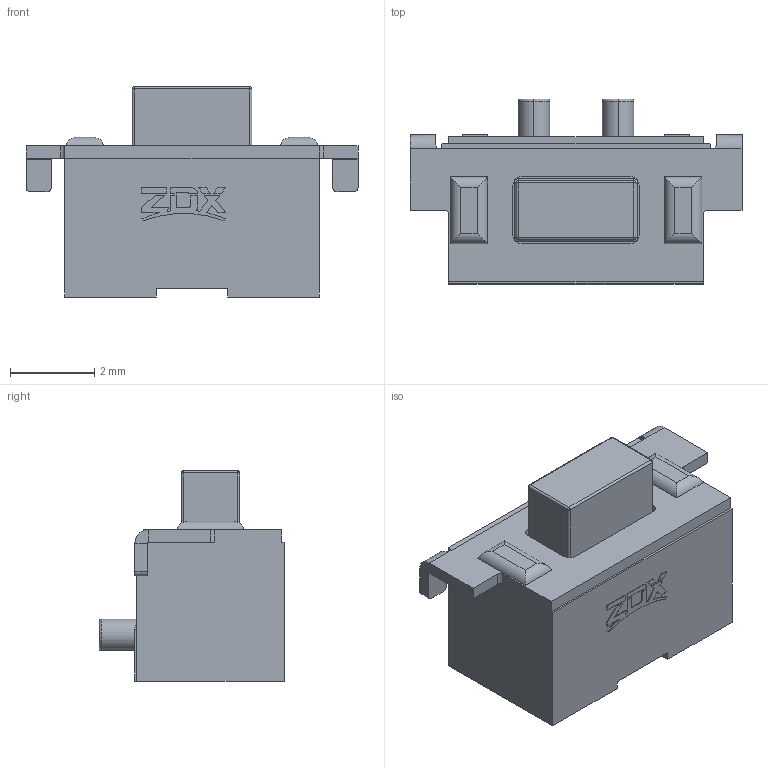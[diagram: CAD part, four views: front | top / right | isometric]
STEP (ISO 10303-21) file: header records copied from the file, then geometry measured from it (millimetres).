
FILE_DESCRIPTION((''),'2;1');
FILE_NAME('ASM0003_ASM','2024-01-07T',('WYH'),(''),'PRO/ENGINEER BY PARAMETRIC TECHNOLOGY CORPORATION, 2013040','PRO/ENGINEER BY PARAMETRIC TECHNOLOGY CORPORATION, 2013040','');
FILE_SCHEMA(('CONFIG_CONTROL_DESIGN'));
Length unit declared in the file: millimetre
Products named in the file (1): ASM0003_ASM
Bounding box: 7.9 x 4.42 x 5 mm (x, y, z)
Volume: 71 mm3; surface area: 202.7 mm2
Topology: 1 solids, 2 shells, 253 faces, 649 edges, 412 vertices
Faces by surface type: plane 169, cylinder 70, torus 8, sphere 4, bspline 2
Entity records: 7797 total; most frequent: CARTESIAN_POINT 1650, ORIENTED_EDGE 1290, DIRECTION 1211, EDGE_CURVE 645, VECTOR 493, LINE 493, VERTEX_POINT 412, AXIS2_PLACEMENT_3D 359
